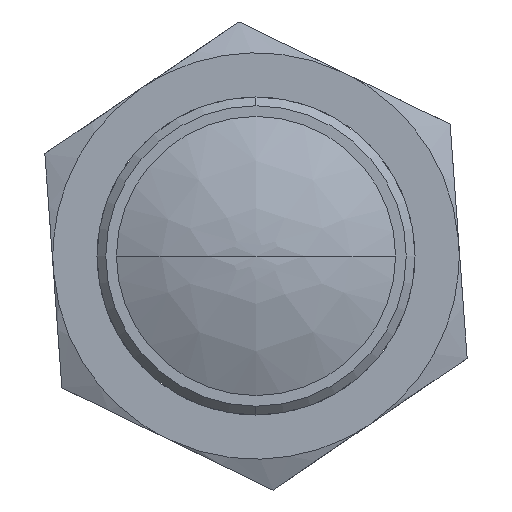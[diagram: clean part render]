
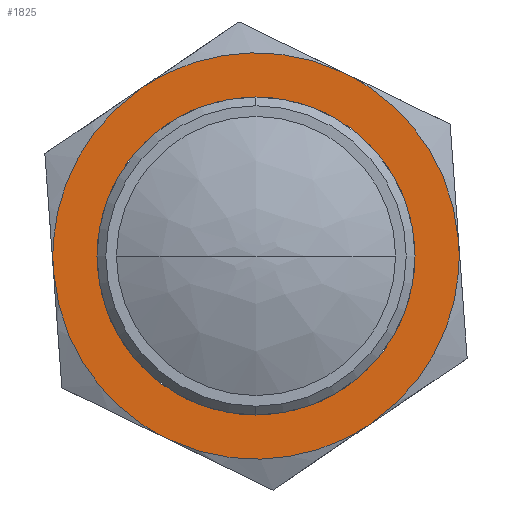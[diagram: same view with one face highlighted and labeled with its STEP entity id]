
A CAD part, left-side view. The second image highlights one B-rep face of the part: STEP entity #1825.
In plain terms, the highlighted planar face has unit normal (-1, 0, 0) as drawn and (1, 0, 0) by its records, which use the part's own axes.
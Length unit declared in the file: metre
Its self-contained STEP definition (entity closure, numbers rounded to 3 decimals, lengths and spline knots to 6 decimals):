
#35 = CIRCLE ( 'NONE', #214, 0.018 ) ;
#49 = ORIENTED_EDGE ( 'NONE', *, *, #574, .T. ) ;
#51 = CARTESIAN_POINT ( 'NONE',  ( 0.0075, 0.018, 0. ) ) ;
#74 = FACE_BOUND ( 'NONE', #690, .T. ) ;
#214 = AXIS2_PLACEMENT_3D ( 'NONE', #571, #1724, #746 ) ;
#223 = EDGE_CURVE ( 'NONE', #723, #910, #1842, .T. ) ;
#278 = CARTESIAN_POINT ( 'NONE',  ( 0.0075, 0.008416, 0.023 ) ) ;
#299 = EDGE_CURVE ( 'NONE', #910, #875, #1762, .T. ) ;
#311 = CARTESIAN_POINT ( 'NONE',  ( 0.0075, -0.015709, -0.018791 ) ) ;
#369 = EDGE_CURVE ( 'NONE', #875, #602, #1158, .T. ) ;
#380 = EDGE_CURVE ( 'NONE', #602, #1616, #1596, .T. ) ;
#390 = EDGE_CURVE ( 'NONE', #1616, #1457, #1216, .T. ) ;
#432 = CARTESIAN_POINT ( 'NONE',  ( 0.0075, -0.018, 0. ) ) ;
#441 = CARTESIAN_POINT ( 'NONE',  ( 0.0075, -0.019919, 0.0115 ) ) ;
#449 = CARTESIAN_POINT ( 'NONE',  ( 0.0075, 0., 0.023 ) ) ;
#450 = VERTEX_POINT ( 'NONE', #432 ) ;
#516 = CARTESIAN_POINT ( 'NONE',  ( 0.0075, -0.019919, -0.0115 ) ) ;
#535 = DIRECTION ( 'NONE',  ( 1., 0., 0. ) ) ;
#563 = CARTESIAN_POINT ( 'NONE',  ( 0.0075, -0.019919, 0.0115 ) ) ;
#571 = CARTESIAN_POINT ( 'NONE',  ( 0.0075, 0., 0. ) ) ;
#574 = EDGE_CURVE ( 'NONE', #1457, #723, #1818, .T. ) ;
#581 = CARTESIAN_POINT ( 'NONE',  ( 0.0075, 0.019919, 0.0115 ) ) ;
#582 = EDGE_CURVE ( 'NONE', #450, #1928, #35, .T. ) ;
#602 = VERTEX_POINT ( 'NONE', #581 ) ;
#603 = CARTESIAN_POINT ( 'NONE',  ( 0.0075, -0.008419, 0.023 ) ) ;
#683 = CARTESIAN_POINT ( 'NONE',  ( 0.0075, -0.008419, -0.023 ) ) ;
#689 = CARTESIAN_POINT ( 'NONE',  ( 0.0075, 0., -0.023 ) ) ;
#690 = EDGE_LOOP ( 'NONE', ( #722, #1914 ) ) ;
#705 = CIRCLE ( 'NONE', #1077, 0.018 ) ;
#722 = ORIENTED_EDGE ( 'NONE', *, *, #804, .F. ) ;
#723 = VERTEX_POINT ( 'NONE', #516 ) ;
#724 = DIRECTION ( 'NONE',  ( 1., 0., 0. ) ) ;
#735 = CARTESIAN_POINT ( 'NONE',  ( 0.0075, -0.024128, 0.004209 ) ) ;
#746 = DIRECTION ( 'NONE',  ( 0., 1., 0. ) ) ;
#769 = CARTESIAN_POINT ( 'NONE',  ( 0.0075, 0.024128, 0.004209 ) ) ;
#775 = CARTESIAN_POINT ( 'NONE',  ( 0.0075, 0., 0.023 ) ) ;
#804 = EDGE_CURVE ( 'NONE', #1928, #450, #705, .T. ) ;
#875 = VERTEX_POINT ( 'NONE', #2033 ) ;
#896 = CARTESIAN_POINT ( 'NONE',  ( 0.0075, -0.024128, -0.004209 ) ) ;
#910 = VERTEX_POINT ( 'NONE', #1074 ) ;
#912 = ORIENTED_EDGE ( 'NONE', *, *, #369, .T. ) ;
#940 = CARTESIAN_POINT ( 'NONE',  ( 0.0075, -0.019919, 0.0115 ) ) ;
#962 = ORIENTED_EDGE ( 'NONE', *, *, #390, .T. ) ;
#964 = FACE_OUTER_BOUND ( 'NONE', #1193, .T. ) ;
#1074 = CARTESIAN_POINT ( 'NONE',  ( 0.0075, 0., -0.023 ) ) ;
#1077 = AXIS2_PLACEMENT_3D ( 'NONE', #1517, #535, #1688 ) ;
#1158 =( BOUNDED_CURVE ( )  B_SPLINE_CURVE ( 3, ( #2073, #2080, #769, #1421 ),
 .UNSPECIFIED., .F., .F. ) 
 B_SPLINE_CURVE_WITH_KNOTS ( ( 4, 4 ),
 ( 0., 0.023989 ),
 .UNSPECIFIED. ) 
 CURVE ( )  GEOMETRIC_REPRESENTATION_ITEM ( )  RATIONAL_B_SPLINE_CURVE ( ( 0.998, 0.909, 0.909, 0.998 ) ) 
 REPRESENTATION_ITEM ( '' )  );
#1193 = EDGE_LOOP ( 'NONE', ( #962, #49, #2118, #1295, #912, #1916 ) ) ;
#1210 = CARTESIAN_POINT ( 'NONE',  ( 0.0075, -0.023276, 0.023276 ) ) ;
#1216 =( BOUNDED_CURVE ( )  B_SPLINE_CURVE ( 3, ( #775, #603, #1582, #441 ),
 .UNSPECIFIED., .F., .F. ) 
 B_SPLINE_CURVE_WITH_KNOTS ( ( 4, 4 ),
 ( 0., 0.023989 ),
 .UNSPECIFIED. ) 
 CURVE ( )  GEOMETRIC_REPRESENTATION_ITEM ( )  RATIONAL_B_SPLINE_CURVE ( ( 0.998, 0.909, 0.909, 0.998 ) ) 
 REPRESENTATION_ITEM ( '' )  );
#1295 = ORIENTED_EDGE ( 'NONE', *, *, #299, .T. ) ;
#1421 = CARTESIAN_POINT ( 'NONE',  ( 0.0075, 0.019919, 0.0115 ) ) ;
#1457 = VERTEX_POINT ( 'NONE', #940 ) ;
#1489 = CARTESIAN_POINT ( 'NONE',  ( 0.0075, 0.008419, -0.023 ) ) ;
#1517 = CARTESIAN_POINT ( 'NONE',  ( 0.0075, 0., 0. ) ) ;
#1582 = CARTESIAN_POINT ( 'NONE',  ( 0.0075, -0.015709, 0.018791 ) ) ;
#1593 = AXIS2_PLACEMENT_3D ( 'NONE', #1210, #724, #1864 ) ;
#1596 =( BOUNDED_CURVE ( )  B_SPLINE_CURVE ( 3, ( #1919, #1905, #278, #449 ),
 .UNSPECIFIED., .F., .F. ) 
 B_SPLINE_CURVE_WITH_KNOTS ( ( 4, 4 ),
 ( 0., 0.023989 ),
 .UNSPECIFIED. ) 
 CURVE ( )  GEOMETRIC_REPRESENTATION_ITEM ( )  RATIONAL_B_SPLINE_CURVE ( ( 0.998, 0.91, 0.91, 1. ) ) 
 REPRESENTATION_ITEM ( '' )  );
#1616 = VERTEX_POINT ( 'NONE', #1961 ) ;
#1688 = DIRECTION ( 'NONE',  ( 0., 1., 0. ) ) ;
#1700 = PLANE ( 'NONE',  #1593 ) ;
#1724 = DIRECTION ( 'NONE',  ( 1., 0., 0. ) ) ;
#1762 =( BOUNDED_CURVE ( )  B_SPLINE_CURVE ( 3, ( #1815, #1489, #1983, #2001 ),
 .UNSPECIFIED., .F., .F. ) 
 B_SPLINE_CURVE_WITH_KNOTS ( ( 4, 4 ),
 ( 0., 0.023989 ),
 .UNSPECIFIED. ) 
 CURVE ( )  GEOMETRIC_REPRESENTATION_ITEM ( )  RATIONAL_B_SPLINE_CURVE ( ( 0.998, 0.909, 0.909, 0.998 ) ) 
 REPRESENTATION_ITEM ( '' )  );
#1780 = CARTESIAN_POINT ( 'NONE',  ( 0.0075, -0.019919, -0.0115 ) ) ;
#1815 = CARTESIAN_POINT ( 'NONE',  ( 0.0075, 0., -0.023 ) ) ;
#1818 =( BOUNDED_CURVE ( )  B_SPLINE_CURVE ( 3, ( #563, #735, #896, #2038 ),
 .UNSPECIFIED., .F., .F. ) 
 B_SPLINE_CURVE_WITH_KNOTS ( ( 4, 4 ),
 ( 0., 0.023989 ),
 .UNSPECIFIED. ) 
 CURVE ( )  GEOMETRIC_REPRESENTATION_ITEM ( )  RATIONAL_B_SPLINE_CURVE ( ( 0.998, 0.909, 0.909, 0.998 ) ) 
 REPRESENTATION_ITEM ( '' )  );
#1825 = ADVANCED_FACE ( 'NONE', ( #74, #964 ), #1700, .T. ) ;
#1842 =( BOUNDED_CURVE ( )  B_SPLINE_CURVE ( 3, ( #1780, #311, #683, #689 ),
 .UNSPECIFIED., .F., .T. ) 
 B_SPLINE_CURVE_WITH_KNOTS ( ( 4, 4 ),
 ( 0., 0.023989 ),
 .UNSPECIFIED. ) 
 CURVE ( )  GEOMETRIC_REPRESENTATION_ITEM ( )  RATIONAL_B_SPLINE_CURVE ( ( 0.998, 0.909, 0.909, 0.998 ) ) 
 REPRESENTATION_ITEM ( '' )  );
#1864 = DIRECTION ( 'NONE',  ( 0., 0., -1. ) ) ;
#1905 = CARTESIAN_POINT ( 'NONE',  ( 0.0075, 0.015708, 0.018793 ) ) ;
#1914 = ORIENTED_EDGE ( 'NONE', *, *, #582, .F. ) ;
#1916 = ORIENTED_EDGE ( 'NONE', *, *, #380, .T. ) ;
#1919 = CARTESIAN_POINT ( 'NONE',  ( 0.0075, 0.019919, 0.0115 ) ) ;
#1928 = VERTEX_POINT ( 'NONE', #51 ) ;
#1961 = CARTESIAN_POINT ( 'NONE',  ( 0.0075, 0., 0.023 ) ) ;
#1983 = CARTESIAN_POINT ( 'NONE',  ( 0.0075, 0.015709, -0.018791 ) ) ;
#2001 = CARTESIAN_POINT ( 'NONE',  ( 0.0075, 0.019919, -0.0115 ) ) ;
#2033 = CARTESIAN_POINT ( 'NONE',  ( 0.0075, 0.019919, -0.0115 ) ) ;
#2038 = CARTESIAN_POINT ( 'NONE',  ( 0.0075, -0.019919, -0.0115 ) ) ;
#2073 = CARTESIAN_POINT ( 'NONE',  ( 0.0075, 0.019919, -0.0115 ) ) ;
#2080 = CARTESIAN_POINT ( 'NONE',  ( 0.0075, 0.024128, -0.004209 ) ) ;
#2118 = ORIENTED_EDGE ( 'NONE', *, *, #223, .T. ) ;
